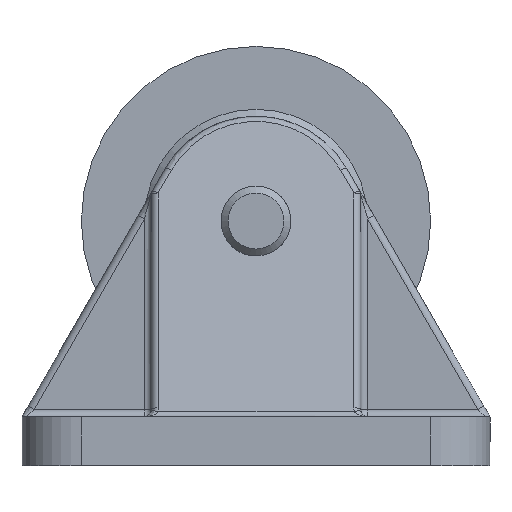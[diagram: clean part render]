
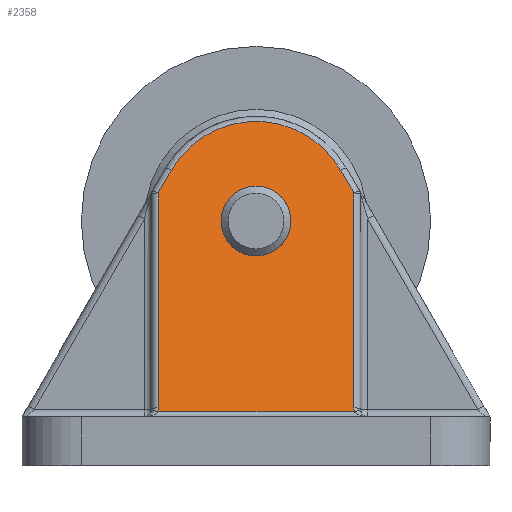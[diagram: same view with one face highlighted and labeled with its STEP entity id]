
A CAD part, left-side view. The second image highlights one B-rep face of the part: STEP entity #2358.
In plain terms, the highlighted planar face has unit normal (-0.963, 0, 0.269).
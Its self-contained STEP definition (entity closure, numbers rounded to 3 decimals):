
#84=FACE_BOUND('',#436,.T.);
#112=PLANE('',#2711);
#172=ELLIPSE('',#2656,2.076,2.);
#174=ELLIPSE('',#2662,14.535,14.);
#180=ELLIPSE('',#2677,2.076,2.);
#185=ELLIPSE('',#2712,5.191,5.);
#287=FACE_OUTER_BOUND('',#435,.T.);
#435=EDGE_LOOP('',(#1893,#1894,#1895,#1896,#1897,#1898,#1899,#1900));
#436=EDGE_LOOP('',(#1901));
#713=LINE('',#4670,#851);
#715=LINE('',#4676,#853);
#717=LINE('',#4719,#855);
#723=LINE('',#4815,#861);
#740=LINE('',#4974,#878);
#851=VECTOR('',#3153,10.);
#853=VECTOR('',#3159,10.);
#855=VECTOR('',#3169,10.);
#861=VECTOR('',#3197,10.);
#878=VECTOR('',#3282,10.);
#1047=VERTEX_POINT('',#4597);
#1051=VERTEX_POINT('',#4609);
#1052=VERTEX_POINT('',#4637);
#1055=VERTEX_POINT('',#4663);
#1057=VERTEX_POINT('',#4672);
#1059=VERTEX_POINT('',#4712);
#1068=VERTEX_POINT('',#4811);
#1070=VERTEX_POINT('',#4836);
#1088=VERTEX_POINT('',#4980);
#1322=EDGE_CURVE('',#1052,#1055,#172,.T.);
#1324=EDGE_CURVE('',#1055,#1051,#713,.T.);
#1327=EDGE_CURVE('',#1051,#1057,#715,.T.);
#1330=EDGE_CURVE('',#1057,#1059,#174,.T.);
#1332=EDGE_CURVE('',#1059,#1047,#717,.T.);
#1347=EDGE_CURVE('',#1047,#1068,#723,.T.);
#1350=EDGE_CURVE('',#1068,#1070,#180,.T.);
#1385=EDGE_CURVE('',#1070,#1052,#740,.T.);
#1388=EDGE_CURVE('',#1088,#1088,#185,.T.);
#1893=ORIENTED_EDGE('',*,*,#1322,.F.);
#1894=ORIENTED_EDGE('',*,*,#1385,.F.);
#1895=ORIENTED_EDGE('',*,*,#1350,.F.);
#1896=ORIENTED_EDGE('',*,*,#1347,.F.);
#1897=ORIENTED_EDGE('',*,*,#1332,.F.);
#1898=ORIENTED_EDGE('',*,*,#1330,.F.);
#1899=ORIENTED_EDGE('',*,*,#1327,.F.);
#1900=ORIENTED_EDGE('',*,*,#1324,.F.);
#1901=ORIENTED_EDGE('',*,*,#1388,.F.);
#2358=ADVANCED_FACE('',(#287,#84),#112,.F.);
#2656=AXIS2_PLACEMENT_3D('',#4667,#3148,#3149);
#2662=AXIS2_PLACEMENT_3D('',#4716,#3164,#3165);
#2677=AXIS2_PLACEMENT_3D('',#4840,#3202,#3203);
#2711=AXIS2_PLACEMENT_3D('',#4979,#3289,#3290);
#2712=AXIS2_PLACEMENT_3D('',#4981,#3291,#3292);
#3148=DIRECTION('center_axis',(-0.963,0.,0.269));
#3149=DIRECTION('ref_axis',(-0.269,0.,-0.963));
#3153=DIRECTION('',(0.269,0.,0.963));
#3159=DIRECTION('',(0.235,-0.486,0.842));
#3164=DIRECTION('center_axis',(0.963,0.,-0.269));
#3165=DIRECTION('ref_axis',(0.269,0.,0.963));
#3169=DIRECTION('',(-0.235,-0.486,-0.842));
#3197=DIRECTION('',(-0.269,0.,-0.963));
#3202=DIRECTION('center_axis',(-0.963,0.,0.269));
#3203=DIRECTION('ref_axis',(-0.269,0.,-0.963));
#3282=DIRECTION('',(0.,1.,0.));
#3289=DIRECTION('center_axis',(0.963,0.,-0.269));
#3290=DIRECTION('ref_axis',(0.269,0.,0.963));
#3291=DIRECTION('center_axis',(-0.963,0.,0.269));
#3292=DIRECTION('ref_axis',(-0.269,0.,-0.963));
#4597=CARTESIAN_POINT('',(-23.564,-14.,39.022));
#4609=CARTESIAN_POINT('',(-23.564,14.,39.022));
#4637=CARTESIAN_POINT('',(-32.296,14.074,7.731));
#4663=CARTESIAN_POINT('',(-32.146,14.,8.269));
#4667=CARTESIAN_POINT('Origin',(-32.146,16.,8.269));
#4670=CARTESIAN_POINT('',(-26.41,14.,28.824));
#4672=CARTESIAN_POINT('',(-22.657,12.122,42.272));
#4676=CARTESIAN_POINT('',(-32.614,32.737,6.591));
#4712=CARTESIAN_POINT('',(-22.657,-12.122,42.272));
#4716=CARTESIAN_POINT('Origin',(-24.611,0.,
35.269));
#4719=CARTESIAN_POINT('',(-24.107,-15.126,37.074));
#4811=CARTESIAN_POINT('',(-32.146,-14.,8.269));
#4815=CARTESIAN_POINT('',(-26.97,-14.,26.817));
#4836=CARTESIAN_POINT('',(-32.296,-14.074,7.731));
#4840=CARTESIAN_POINT('Origin',(-32.146,-16.,8.269));
#4974=CARTESIAN_POINT('',(-32.296,16.75,7.731));
#4979=CARTESIAN_POINT('Origin',(-32.5,33.5,7.));
#4980=CARTESIAN_POINT('',(-23.291,0.,40.));
#4981=CARTESIAN_POINT('Origin',(-24.686,0.,
35.));
